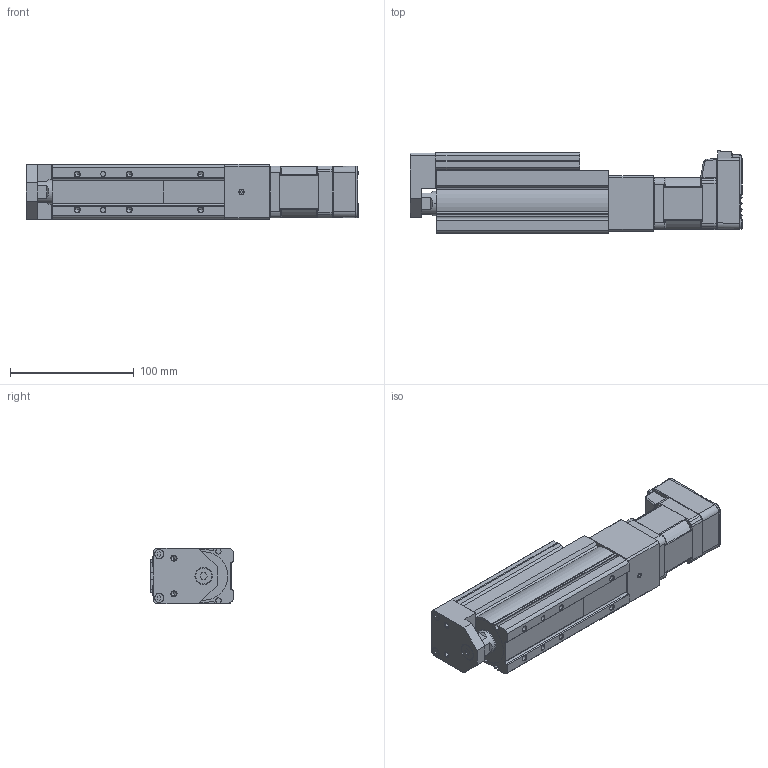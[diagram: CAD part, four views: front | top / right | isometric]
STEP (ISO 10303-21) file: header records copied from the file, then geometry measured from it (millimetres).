
FILE_DESCRIPTION (( 'STEP AP214' ), '1' );
FILE_NAME ('LESYH3(+)-16DNM1□-50-17L.STEP', '2023-04-18T00:04:41', ( '' ), ( '' ), 'SwSTEP 2.0', 'SolidWorks 2019', '' );
FILE_SCHEMA (( 'AUTOMOTIVE_DESIGN' ));
Length unit declared in the file: millimetre
Products named in the file (5): LESYH3(+)-16仏NM1仩-50_TABLE; CM3(+)-17L50A; LESYH3(+)-16仏NM1仩-50_BODY; LESYH3(+)-16DNM1□-50-17L; LESYH3(+)-16DNM1□_MOTOR Flange
Assembly tree (4 placements, depth 2):
  LESYH3(+)-16DNM1□-50-17L
    LESYH3(+)-16仏NM1仩-50_BODY
    LESYH3(+)-16仏NM1仩-50_TABLE
    LESYH3(+)-16DNM1□_MOTOR Flange
    CM3(+)-17L50A
Bounding box: 268.8 x 66.75 x 45 mm (x, y, z)
Volume: 567118 mm3; surface area: 106373.9 mm2
Topology: 4 solids, 4 shells, 1057 faces, 2682 edges, 1681 vertices
Faces by surface type: plane 532, cylinder 317, cone 127, torus 31, bspline 29, sphere 21
Entity records: 41120 total; most frequent: CARTESIAN_POINT 7540, ORIENTED_EDGE 5290, DIRECTION 5161, EDGE_CURVE 2645, AXIS2_PLACEMENT_3D 1742, VERTEX_POINT 1681, VECTOR 1677, LINE 1677
